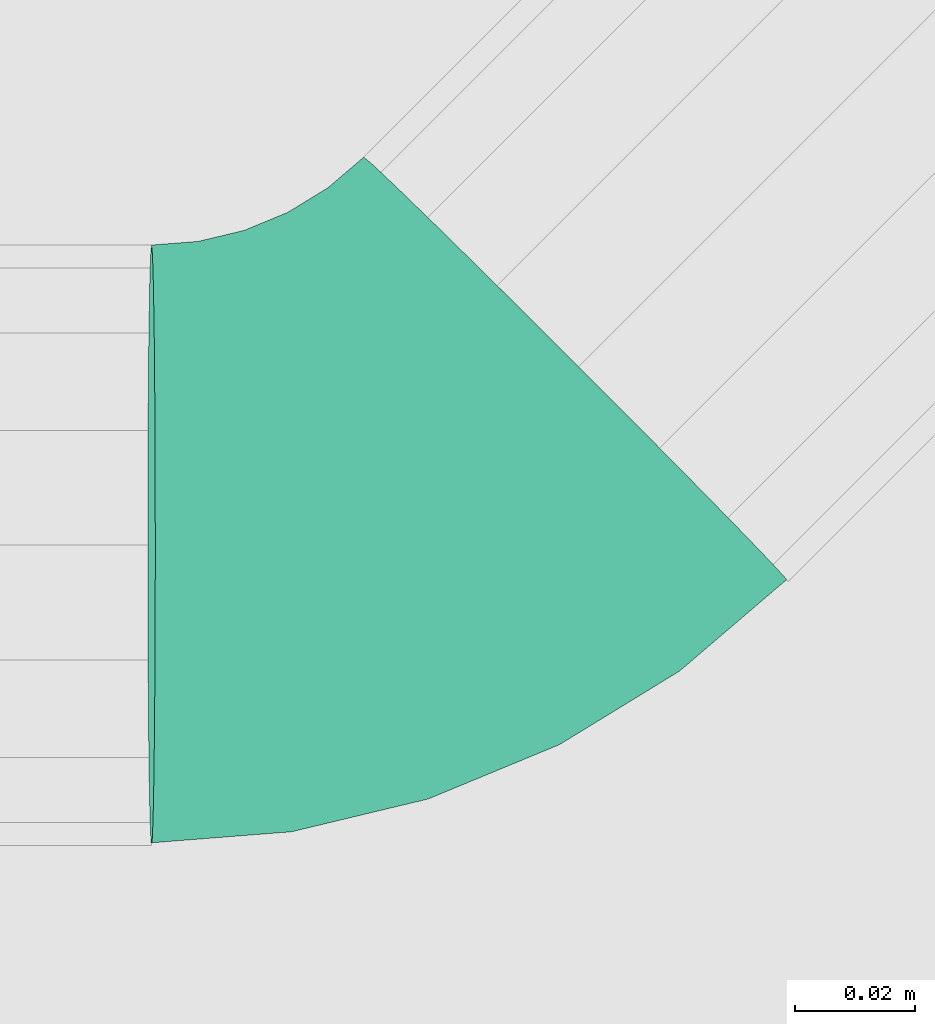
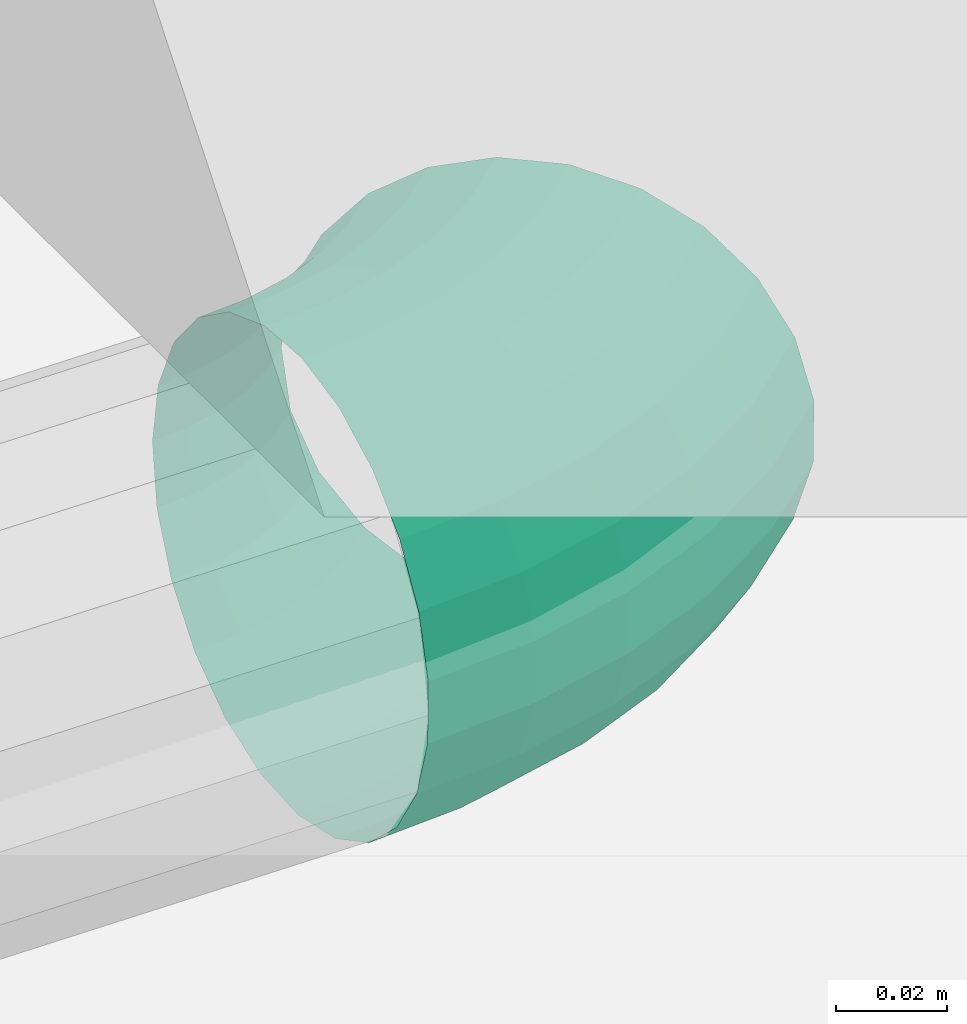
# One storey, part 85 of 108: 1 flow fitting.
"""IFC2X3 building model written with IfcOpenShell, lengths in metres."""

from ifc_helpers import new_model, entity, si_unit, converted_unit, derived_unit, money_unit, direction, frame, origin_with_axes, place, context, subcontext, project, spatial, open_shell, surface_model, material, type_object, element, save


model = new_model("IFC2X3")

# Units and contexts
model_context = context("Model", 3, precision=1e-05, world=origin_with_axes(), true_north=direction((0.0, 1.0)))
body_context = subcontext(model_context, "Body", "Model", "MODEL_VIEW", scale=1.0)
ifc_project = project(units=[si_unit("LENGTHUNIT", "METRE"), si_unit("AREAUNIT", "SQUARE_METRE"), si_unit("VOLUMEUNIT", "CUBIC_METRE"), si_unit("ABSORBEDDOSEUNIT", "GRAY"), si_unit("AMOUNTOFSUBSTANCEUNIT", "MOLE"), si_unit("DOSEEQUIVALENTUNIT", "SIEVERT"), si_unit("ELECTRICCAPACITANCEUNIT", "FARAD"), si_unit("ELECTRICCHARGEUNIT", "COULOMB"), si_unit("ELECTRICCONDUCTANCEUNIT", "SIEMENS"), si_unit("ELECTRICCURRENTUNIT", "AMPERE"), si_unit("ELECTRICRESISTANCEUNIT", "OHM"), si_unit("ELECTRICVOLTAGEUNIT", "VOLT"), si_unit("ENERGYUNIT", "JOULE"), si_unit("FORCEUNIT", "NEWTON"), si_unit("FREQUENCYUNIT", "HERTZ"), si_unit("ILLUMINANCEUNIT", "LUX"), si_unit("INDUCTANCEUNIT", "HENRY"), si_unit("LUMINOUSFLUXUNIT", "LUMEN"), si_unit("LUMINOUSINTENSITYUNIT", "CANDELA"), si_unit("MAGNETICFLUXDENSITYUNIT", "TESLA"), si_unit("MAGNETICFLUXUNIT", "WEBER"), si_unit("MASSUNIT", "GRAM"), converted_unit("PLANEANGLEUNIT", "degree", entity("IfcReal", 0.0174532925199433), si_unit("PLANEANGLEUNIT", "RADIAN"), dimensions=[0, 0, 0, 0, 0, 0, 0]), si_unit("POWERUNIT", "WATT"), si_unit("PRESSUREUNIT", "PASCAL"), si_unit("RADIOACTIVITYUNIT", "BECQUEREL"), si_unit("SOLIDANGLEUNIT", "STERADIAN"), si_unit("THERMODYNAMICTEMPERATUREUNIT", "KELVIN"), si_unit("TIMEUNIT", "SECOND"), derived_unit("ACCELERATIONUNIT", [(si_unit("LENGTHUNIT", "METRE"), 1), (si_unit("TIMEUNIT", "SECOND"), -2)]), derived_unit("ANGULARVELOCITYUNIT", [(converted_unit("PLANEANGLEUNIT", "degree", entity("IfcReal", 0.0174532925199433), si_unit("PLANEANGLEUNIT", "RADIAN"), dimensions=[0, 0, 0, 0, 0, 0, 0]), 1), (si_unit("TIMEUNIT", "SECOND"), -1)]), derived_unit("CURVATUREUNIT", [(converted_unit("PLANEANGLEUNIT", "degree", entity("IfcReal", 0.0174532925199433), si_unit("PLANEANGLEUNIT", "RADIAN"), dimensions=[0, 0, 0, 0, 0, 0, 0]), 1), (si_unit("LENGTHUNIT", "METRE"), -1)]), derived_unit("DYNAMICVISCOSITYUNIT", [(si_unit("PRESSUREUNIT", "PASCAL"), 1), (si_unit("TIMEUNIT", "SECOND"), 1)]), derived_unit("HEATFLUXDENSITYUNIT", [(si_unit("POWERUNIT", "WATT"), 1), (si_unit("LENGTHUNIT", "METRE"), -2)]), derived_unit("HEATINGVALUEUNIT", [(si_unit("ENERGYUNIT", "JOULE"), 1), (si_unit("MASSUNIT", "GRAM"), -1)]), derived_unit("INTEGERCOUNTRATEUNIT", [(si_unit("TIMEUNIT", "SECOND"), -1)]), derived_unit("IONCONCENTRATIONUNIT", [(si_unit("MASSUNIT", "GRAM"), 1), (si_unit("VOLUMEUNIT", "CUBIC_METRE"), -1)]), derived_unit("ISOTHERMALMOISTURECAPACITYUNIT", [(si_unit("VOLUMEUNIT", "CUBIC_METRE"), 1), (si_unit("MASSUNIT", "GRAM"), -1)]), derived_unit("KINEMATICVISCOSITYUNIT", [(si_unit("AREAUNIT", "SQUARE_METRE"), 1), (si_unit("TIMEUNIT", "SECOND"), -1)]), derived_unit("LINEARFORCEUNIT", [(si_unit("FORCEUNIT", "NEWTON"), 1), (si_unit("LENGTHUNIT", "METRE"), -1)]), derived_unit("LINEARMOMENTUNIT", [(si_unit("FORCEUNIT", "NEWTON"), 1), (si_unit("LENGTHUNIT", "METRE"), -1)]), derived_unit("LINEARSTIFFNESSUNIT", [(si_unit("FORCEUNIT", "NEWTON"), 1), (si_unit("LENGTHUNIT", "METRE"), -1)]), derived_unit("LINEARVELOCITYUNIT", [(si_unit("LENGTHUNIT", "METRE"), 1), (si_unit("TIMEUNIT", "SECOND"), -1)]), derived_unit("LUMINOUSINTENSITYDISTRIBUTIONUNIT", [(si_unit("LUMINOUSINTENSITYUNIT", "CANDELA"), 1), (si_unit("LUMINOUSFLUXUNIT", "LUMEN"), -1)]), derived_unit("MASSDENSITYUNIT", [(si_unit("MASSUNIT", "GRAM"), 1), (si_unit("VOLUMEUNIT", "CUBIC_METRE"), -1)]), derived_unit("MASSFLOWRATEUNIT", [(si_unit("MASSUNIT", "GRAM"), 1), (si_unit("TIMEUNIT", "SECOND"), -1)]), derived_unit("MASSPERLENGTHUNIT", [(si_unit("MASSUNIT", "GRAM"), 1), (si_unit("LENGTHUNIT", "METRE"), -1)]), derived_unit("MODULUSOFELASTICITYUNIT", [(si_unit("FORCEUNIT", "NEWTON"), 1), (si_unit("AREAUNIT", "SQUARE_METRE"), -1)]), derived_unit("MODULUSOFLINEARSUBGRADEREACTIONUNIT", [(si_unit("FORCEUNIT", "NEWTON"), 1), (si_unit("LENGTHUNIT", "METRE"), -2)]), derived_unit("MODULUSOFROTATIONALSUBGRADEREACTIONUNIT", [(si_unit("FORCEUNIT", "NEWTON"), 1), (si_unit("LENGTHUNIT", "METRE"), 1)]), derived_unit("MODULUSOFSUBGRADEREACTIONUNIT", [(si_unit("FORCEUNIT", "NEWTON"), 1), (si_unit("VOLUMEUNIT", "CUBIC_METRE"), -1)]), derived_unit("MOISTUREDIFFUSIVITYUNIT", [(si_unit("VOLUMEUNIT", "CUBIC_METRE"), 1), (si_unit("TIMEUNIT", "SECOND"), -1)]), derived_unit("MOLECULARWEIGHTUNIT", [(si_unit("MASSUNIT", "GRAM"), 1), (si_unit("AMOUNTOFSUBSTANCEUNIT", "MOLE"), -1)]), derived_unit("PLANARFORCEUNIT", [(si_unit("FORCEUNIT", "NEWTON"), 1), (si_unit("LENGTHUNIT", "METRE"), -2)]), derived_unit("ROTATIONALFREQUENCYUNIT", [(si_unit("TIMEUNIT", "SECOND"), -1)]), derived_unit("ROTATIONALMASSUNIT", [(si_unit("MASSUNIT", "GRAM"), 1), (si_unit("LENGTHUNIT", "METRE"), 2)]), derived_unit("ROTATIONALSTIFFNESSUNIT", [(si_unit("FORCEUNIT", "NEWTON"), 1), (si_unit("LENGTHUNIT", "METRE"), 1), (converted_unit("PLANEANGLEUNIT", "degree", entity("IfcReal", 0.0174532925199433), si_unit("PLANEANGLEUNIT", "RADIAN"), dimensions=[0, 0, 0, 0, 0, 0, 0]), -1)]), derived_unit("SECTIONAREAINTEGRALUNIT", [(si_unit("LENGTHUNIT", "METRE"), 5)]), derived_unit("SECTIONMODULUSUNIT", [(si_unit("LENGTHUNIT", "METRE"), 3)]), derived_unit("SHEARMODULUSUNIT", [(si_unit("FORCEUNIT", "NEWTON"), 1), (si_unit("AREAUNIT", "SQUARE_METRE"), -1)]), derived_unit("SOUNDPOWERUNIT", [(si_unit("ENERGYUNIT", "JOULE"), 1), (si_unit("TIMEUNIT", "SECOND"), -1)]), derived_unit("SPECIFICHEATCAPACITYUNIT", [(si_unit("FORCEUNIT", "NEWTON"), 1), (si_unit("MASSUNIT", "GRAM"), -1), (si_unit("THERMODYNAMICTEMPERATUREUNIT", "KELVIN"), -1)]), derived_unit("TEMPERATUREGRADIENTUNIT", [(si_unit("THERMODYNAMICTEMPERATUREUNIT", "KELVIN"), 1), (si_unit("LENGTHUNIT", "METRE"), -1)]), derived_unit("THERMALADMITTANCEUNIT", [(si_unit("POWERUNIT", "WATT"), 1), (si_unit("AREAUNIT", "SQUARE_METRE"), -1), (si_unit("THERMODYNAMICTEMPERATUREUNIT", "KELVIN"), -1)]), derived_unit("THERMALCONDUCTANCEUNIT", [(si_unit("POWERUNIT", "WATT"), 1), (si_unit("LENGTHUNIT", "METRE"), -1), (si_unit("THERMODYNAMICTEMPERATUREUNIT", "KELVIN"), -1)]), derived_unit("THERMALEXPANSIONCOEFFICIENTUNIT", [(si_unit("THERMODYNAMICTEMPERATUREUNIT", "KELVIN"), -1)]), derived_unit("THERMALRESISTANCEUNIT", [(si_unit("AREAUNIT", "SQUARE_METRE"), 1), (si_unit("POWERUNIT", "WATT"), -1)]), derived_unit("THERMALTRANSMITTANCEUNIT", [(si_unit("POWERUNIT", "WATT"), 1), (si_unit("AREAUNIT", "SQUARE_METRE"), -1), (si_unit("THERMODYNAMICTEMPERATUREUNIT", "KELVIN"), -1)]), derived_unit("TORQUEUNIT", [(si_unit("FORCEUNIT", "NEWTON"), 1), (si_unit("LENGTHUNIT", "METRE"), 1)]), derived_unit("VAPORPERMEABILITYUNIT", [(si_unit("MASSUNIT", "GRAM"), 1), (si_unit("TIMEUNIT", "SECOND"), -1)]), derived_unit("VOLUMETRICFLOWRATEUNIT", [(si_unit("VOLUMEUNIT", "CUBIC_METRE"), 1), (si_unit("TIMEUNIT", "SECOND"), -1)]), derived_unit("WARPINGCONSTANTUNIT", [(si_unit("LENGTHUNIT", "METRE"), 6)]), derived_unit("WARPINGMOMENTUNIT", [(si_unit("FORCEUNIT", "NEWTON"), 1), (si_unit("LENGTHUNIT", "METRE"), 2)]), money_unit("GBP")], contexts=[model_context])

# Site, building, storey, space
site_placement = place(None, origin_with_axes())
site = spatial("IfcSite", under=ifc_project, at=site_placement, Name="Site", CompositionType="ELEMENT")
building_placement = place(site_placement, origin_with_axes())
building = spatial("IfcBuilding", under=site, at=building_placement, Name="Building01", CompositionType="ELEMENT")
storey_placement = place(building_placement, origin_with_axes())
storey = spatial("IfcBuildingStorey", under=building, at=storey_placement, Name="GF", CompositionType="ELEMENT", Elevation=0.0)
space_placement = place(storey_placement, frame((3.380525, 16.69365, 0.216987), z_axis=(0.0, 0.0, 1.0), x_axis=(-1.0, 0.0, 0.0)))
space = spatial("IfcSpace", under=storey, at=space_placement, Name="0", CompositionType="ELEMENT", InteriorOrExteriorSpace="NOTDEFINED")

# Flow fitting
ifc_material = material(Name="M_BSUK_ColdWater")
pipe_fitting_type = type_object("IfcPipeFittingType", Name="M-BmpElbow-DefaultElbow", PredefinedType="BEND")
flow_fitting_placement = place(storey_placement, frame((8.553844, 11.75, 4.578911), z_axis=(6.471e-05, -0.9999866, 0.00517679), x_axis=(0.99992188, 0.0, -0.01249902)))
element("IfcFlowFitting", 1, at=flow_fitting_placement, inside=space, type_object=pipe_fitting_type, material=ifc_material, Name="M-BmpElbow-DefaultElbow", ObjectType="M-BmpElbow-DefaultElbow", context=body_context, shape_type="SurfaceModel", body=[
    surface_model("IfcShellBasedSurfaceModel", [(0.008111, -0.01349, -0.048784), (0.0, -0.01349, -0.048146), (0.0, 0.0, -0.05), (0.007821, 0.0, -0.050615), (0.016023, -0.01349, -0.050683), (0.01545, 0.0, -0.052447), (0.023539, -0.01349, -0.053797), (0.022698, 0.0, -0.055449), (0.030477, -0.01349, -0.058048), (0.029387, 0.0, -0.059548), (0.036664, -0.01349, -0.063331), (0.035353, 0.0, -0.064642), (0.00896, -0.025979, -0.043426), (0.0, -0.025979, -0.042721), (0.017699, -0.025979, -0.045524), (0.026002, -0.025979, -0.048963), (0.033665, -0.025979, -0.053659), (0.0405, -0.025979, -0.059495), (0.010304, -0.036542, -0.034939), (0.0, -0.036542, -0.034128), (0.020354, -0.036542, -0.037351), (0.029903, -0.036542, -0.041306), (0.038716, -0.036542, -0.046706), (0.046576, -0.036542, -0.053418), (0.012044, -0.044394, -0.023951), (0.0, -0.044394, -0.023003), (0.023791, -0.044394, -0.026771), (0.034953, -0.044394, -0.031394), (0.045254, -0.044394, -0.037706), (0.054441, -0.044394, -0.045552), (0.014051, -0.048954, -0.011279), (0.0, -0.048954, -0.010173), (0.027756, -0.048954, -0.014569), (0.040778, -0.048954, -0.019962), (0.052795, -0.048954, -0.027326), (0.063513, -0.048954, -0.036478), (0.016176, -0.049883, 0.002139), (0.0, -0.049883, 0.003412), (0.031954, -0.049883, -0.001648), (0.046945, -0.049883, -0.007857), (0.06078, -0.049883, -0.016335), (0.073119, -0.049883, -0.026872), (0.018261, -0.047113, 0.015307), (0.0, -0.047113, 0.016744), (0.036073, -0.047113, 0.011031), (0.052997, -0.047113, 0.004022), (0.068616, -0.047113, -0.005549), (0.082545, -0.047113, -0.017444), (0.020152, -0.040848, 0.027248), (0.0, -0.040848, 0.028834), (0.039809, -0.040848, 0.022529), (0.058485, -0.040848, 0.014794), (0.075721, -0.040848, 0.004233), (0.091094, -0.040848, -0.008895), (0.021709, -0.031554, 0.037077), (0.0, -0.031554, 0.038786), (0.042884, -0.031554, 0.031994), (0.063003, -0.031554, 0.023661), (0.08157, -0.031554, 0.012284), (0.09813, -0.031554, -0.001857), (0.022816, -0.01992, 0.044065), (0.0, -0.01992, 0.045861), (0.04507, -0.01992, 0.038723), (0.066214, -0.01992, 0.029965), (0.085729, -0.01992, 0.018008), (0.103132, -0.01992, 0.003146), (0.02339, -0.006808, 0.047694), (0.0, -0.006808, 0.049534), (0.046205, -0.006808, 0.042217), (0.067882, -0.006808, 0.033239), (0.087888, -0.006808, 0.02098), (0.10573, -0.006808, 0.005744), (0.02339, 0.006808, 0.047694), (0.0, 0.006808, 0.049534), (0.046205, 0.006808, 0.042217), (0.067882, 0.006808, 0.033239), (0.087888, 0.006808, 0.02098), (0.10573, 0.006808, 0.005744), (0.022816, 0.01992, 0.044065), (0.0, 0.01992, 0.045861), (0.04507, 0.01992, 0.038723), (0.066214, 0.01992, 0.029965), (0.085729, 0.01992, 0.018008), (0.103132, 0.01992, 0.003146), (0.021709, 0.031554, 0.037077), (0.0, 0.031554, 0.038786), (0.042884, 0.031554, 0.031994), (0.063003, 0.031554, 0.023661), (0.08157, 0.031554, 0.012284), (0.09813, 0.031554, -0.001857), (0.020152, 0.040848, 0.027248), (0.0, 0.040848, 0.028834), (0.039809, 0.040848, 0.022529), (0.058485, 0.040848, 0.014794), (0.075721, 0.040848, 0.004233), (0.091094, 0.040848, -0.008895), (0.018261, 0.047113, 0.015307), (0.0, 0.047113, 0.016744), (0.036073, 0.047113, 0.011031), (0.052997, 0.047113, 0.004022), (0.068616, 0.047113, -0.005549), (0.082545, 0.047113, -0.017444), (0.016176, 0.049883, 0.002139), (0.0, 0.049883, 0.003412), (0.031954, 0.049883, -0.001648), (0.046945, 0.049883, -0.007857), (0.06078, 0.049883, -0.016335), (0.073119, 0.049883, -0.026872), (0.014051, 0.048954, -0.011279), (0.0, 0.048954, -0.010173), (0.027756, 0.048954, -0.014569), (0.040778, 0.048954, -0.019962), (0.052795, 0.048954, -0.027326), (0.063513, 0.048954, -0.036478), (0.012044, 0.044394, -0.023951), (0.0, 0.044394, -0.023003), (0.023791, 0.044394, -0.026771), (0.034953, 0.044394, -0.031394), (0.045254, 0.044394, -0.037706), (0.054441, 0.044394, -0.045552), (0.010304, 0.036542, -0.034939), (0.0, 0.036542, -0.034128), (0.020354, 0.036542, -0.037351), (0.029903, 0.036542, -0.041306), (0.038716, 0.036542, -0.046706), (0.046576, 0.036542, -0.053418), (0.00896, 0.025979, -0.043426), (0.0, 0.025979, -0.042721), (0.017699, 0.025979, -0.045524), (0.026002, 0.025979, -0.048963), (0.033665, 0.025979, -0.053659), (0.0405, 0.025979, -0.059495), (0.008111, 0.01349, -0.048784), (0.0, 0.01349, -0.048146), (0.016023, 0.01349, -0.050683), (0.023539, 0.01349, -0.053797), (0.030477, 0.01349, -0.058048), (0.036664, 0.01349, -0.063331)], [open_shell([[[0, 1, 2, 3]], [[4, 0, 3, 5]], [[6, 4, 5, 7]], [[8, 6, 7, 9]], [[10, 8, 9, 11]], [[12, 13, 1, 0]], [[14, 12, 0, 4]], [[15, 14, 4, 6]], [[16, 15, 6, 8]], [[17, 16, 8, 10]], [[18, 19, 13, 12]], [[20, 18, 12, 14]], [[21, 20, 14, 15]], [[22, 21, 15, 16]], [[23, 22, 16, 17]], [[24, 25, 19, 18]], [[26, 24, 18, 20]], [[27, 26, 20, 21]], [[28, 27, 21, 22]], [[29, 28, 22, 23]], [[30, 31, 25, 24]], [[32, 30, 24, 26]], [[33, 32, 26, 27]], [[34, 33, 27, 28]], [[35, 34, 28, 29]], [[36, 37, 31, 30]], [[38, 36, 30, 32]], [[39, 38, 32, 33]], [[40, 39, 33, 34]], [[41, 40, 34, 35]], [[42, 43, 37, 36]], [[44, 42, 36, 38]], [[45, 44, 38, 39]], [[46, 45, 39, 40]], [[47, 46, 40, 41]], [[48, 49, 43, 42]], [[50, 48, 42, 44]], [[51, 50, 44, 45]], [[52, 51, 45, 46]], [[53, 52, 46, 47]], [[54, 55, 49, 48]], [[56, 54, 48, 50]], [[57, 56, 50, 51]], [[58, 57, 51, 52]], [[59, 58, 52, 53]], [[60, 61, 55, 54]], [[62, 60, 54, 56]], [[63, 62, 56, 57]], [[64, 63, 57, 58]], [[65, 64, 58, 59]], [[66, 67, 61, 60]], [[68, 66, 60, 62]], [[69, 68, 62, 63]], [[70, 69, 63, 64]], [[71, 70, 64, 65]], [[72, 73, 67, 66]], [[74, 72, 66, 68]], [[75, 74, 68, 69]], [[76, 75, 69, 70]], [[77, 76, 70, 71]], [[78, 79, 73, 72]], [[80, 78, 72, 74]], [[81, 80, 74, 75]], [[82, 81, 75, 76]], [[83, 82, 76, 77]], [[84, 85, 79, 78]], [[86, 84, 78, 80]], [[87, 86, 80, 81]], [[88, 87, 81, 82]], [[89, 88, 82, 83]], [[90, 91, 85, 84]], [[92, 90, 84, 86]], [[93, 92, 86, 87]], [[94, 93, 87, 88]], [[95, 94, 88, 89]], [[96, 97, 91, 90]], [[98, 96, 90, 92]], [[99, 98, 92, 93]], [[100, 99, 93, 94]], [[101, 100, 94, 95]], [[102, 103, 97, 96]], [[104, 102, 96, 98]], [[105, 104, 98, 99]], [[106, 105, 99, 100]], [[107, 106, 100, 101]], [[108, 109, 103, 102]], [[110, 108, 102, 104]], [[111, 110, 104, 105]], [[112, 111, 105, 106]], [[113, 112, 106, 107]], [[114, 115, 109, 108]], [[116, 114, 108, 110]], [[117, 116, 110, 111]], [[118, 117, 111, 112]], [[119, 118, 112, 113]], [[120, 121, 115, 114]], [[122, 120, 114, 116]], [[123, 122, 116, 117]], [[124, 123, 117, 118]], [[125, 124, 118, 119]], [[126, 127, 121, 120]], [[128, 126, 120, 122]], [[129, 128, 122, 123]], [[130, 129, 123, 124]], [[131, 130, 124, 125]], [[132, 133, 127, 126]], [[134, 132, 126, 128]], [[135, 134, 128, 129]], [[136, 135, 129, 130]], [[137, 136, 130, 131]], [[3, 2, 133, 132]], [[5, 3, 132, 134]], [[7, 5, 134, 135]], [[9, 7, 135, 136]], [[11, 9, 136, 137]]])]),
])

save(model, "model.ifc")
